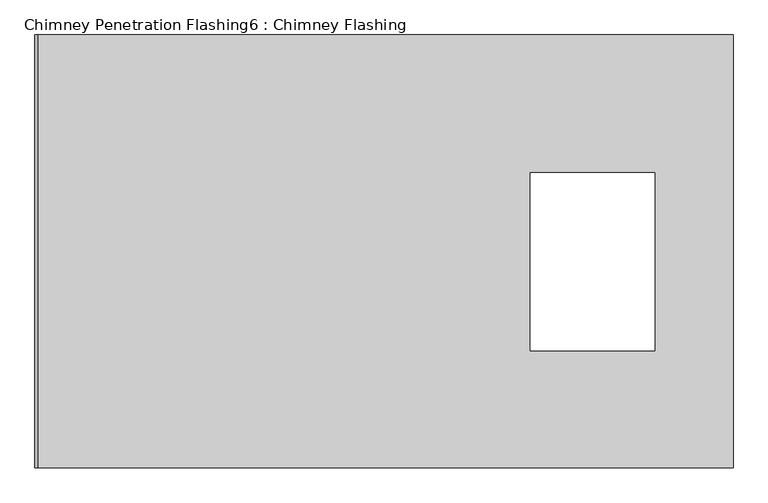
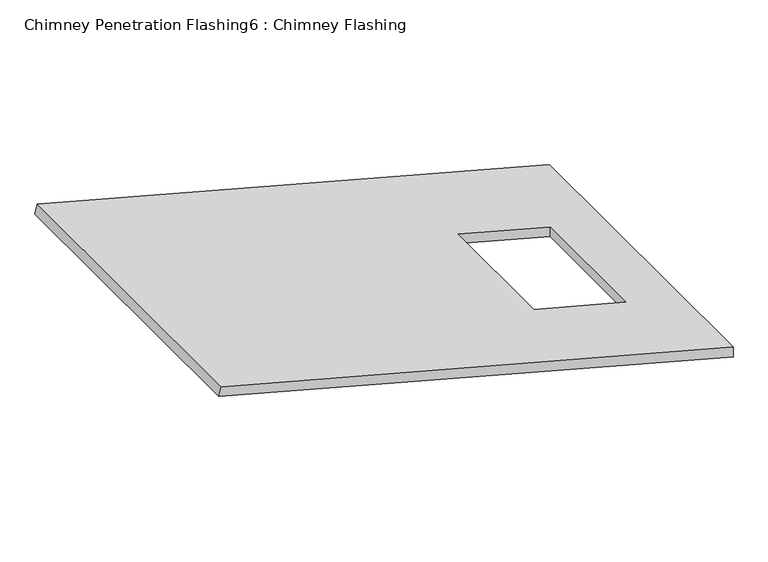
"""IFC4 building model written with IfcOpenShell, lengths in millimetres: proxy geometry, Chimney Penetration Flashing6 : Chimney Flashing."""

from ifc_helpers import new_model, si_unit, origin, place, context, project, spatial, faceted_brep, source, transform, mapped, element, save


def chimney_penetration_flashing6_chimney_flashing_7fd86eaf(model_context):
    return source(origin(), model_context, "Body", "Brep", [
        faceted_brep([(-11738.7741412, -24002.4364455, 3407.6723492), (-11738.7741412, -24002.4364455, 3446.4712036), (-13689.3366652, -24002.4364455, 3969.1228567), (-13699.0363788, -24002.4364455, 3932.9230327), (-11738.7741412, -22787.4364455, 3407.6723492), (-13699.0363788, -22787.4364455, 3932.9230327), (-13689.3366652, -22787.4364455, 3969.1228567), (-11738.7741412, -22787.4364455, 3446.4712036), (-11958.1205824, -23174.097051, 3505.2449054), (-11958.1205824, -23674.097051, 3505.2449054), (-12308.1205824, -23674.097051, 3599.0271228), (-12308.1205824, -23174.097051, 3599.0271228), (-11958.1205824, -23674.097051, 3466.446051), (-11958.1205824, -23174.097051, 3466.446051), (-12308.1205824, -23174.097051, 3560.2282683), (-12308.1205824, -23674.097051, 3560.2282683)], [[[0, 1, 2, 3]], [[4, 5, 6, 7]], [[1, 0, 4, 7]], [[2, 1, 7, 6], [8, 9, 10, 11]], [[3, 2, 6, 5]], [[0, 3, 5, 4], [12, 13, 14, 15]], [[12, 9, 8, 13]], [[13, 8, 11, 14]], [[14, 11, 10, 15]], [[9, 12, 15, 10]]]),
    ])


if __name__ == "__main__":
    model = new_model("IFC4")
    model_context = context("Model", 3, world=origin())
    ifc_project = project(units=[si_unit("LENGTHUNIT", "METRE", prefix="MILLI")], contexts=[model_context])
    site = spatial("IfcSite", under=ifc_project)
    building = spatial("IfcBuilding", under=site)
    placement = place(None, origin())
    chimney_penetration_flashing6_chimney_flashing_shape = chimney_penetration_flashing6_chimney_flashing_7fd86eaf(model_context)
    element("IfcBuildingElementProxy", 1, Name="Chimney Penetration Flashing6 : Chimney Flashing", ObjectType="Chimney Penetration Flashing6 : Chimney Flashing", at=placement, inside=building, context=model_context, shape_type="MappedRepresentation", body=[
        mapped(chimney_penetration_flashing6_chimney_flashing_shape, transform((0.0, 0.0, 0.0), x_axis=(1.0, 0.0, 0.0), y_axis=(0.0, 1.0, 0.0), z_axis=(0.0, 0.0, 1.0))),
    ])
    save(model, "model.ifc")
